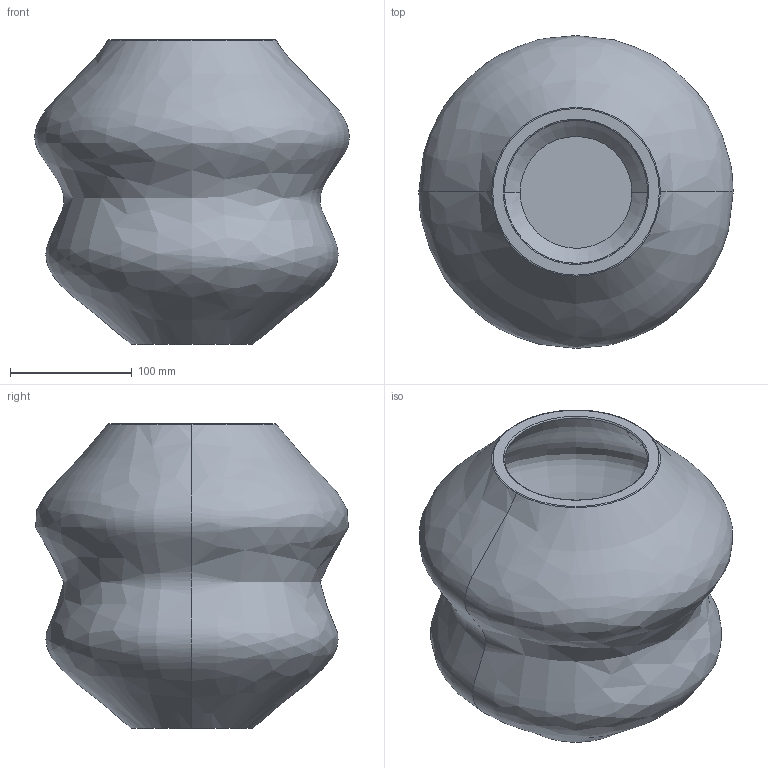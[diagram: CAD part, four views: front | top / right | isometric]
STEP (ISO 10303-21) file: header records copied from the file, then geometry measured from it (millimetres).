
FILE_DESCRIPTION(/* description */ (''),/* implementation_level */ '2;1');
FILE_NAME(/* name */ '25',/* time_stamp */ '2026-07-06T12:06:47+02:00',/* author */ (''),/* organization */ (''),/* preprocessor_version */ 'ST-DEVELOPER v19.2',/* originating_system */ 'Rhino 8.32',/* authorisation */ '');
FILE_SCHEMA (('CONFIG_CONTROL_DESIGN'));
Length unit declared in the file: millimetre
Products named in the file (1): Document
Bounding box: 258.07 x 256.87 x 250 mm (x, y, z)
Volume: 1936033.3 mm3; surface area: 390618.5 mm2
Topology: 1 solids, 1 shells, 11 faces, 20 edges, 12 vertices
Faces by surface type: bspline 8, plane 3
Entity records: 5168 total; most frequent: CARTESIAN_POINT 4904, ORIENTED_EDGE 40, DIRECTION 29, EDGE_CURVE 20, AXIS2_PLACEMENT_3D 16, EDGE_LOOP 12, VERTEX_POINT 12, ADVANCED_FACE 11
